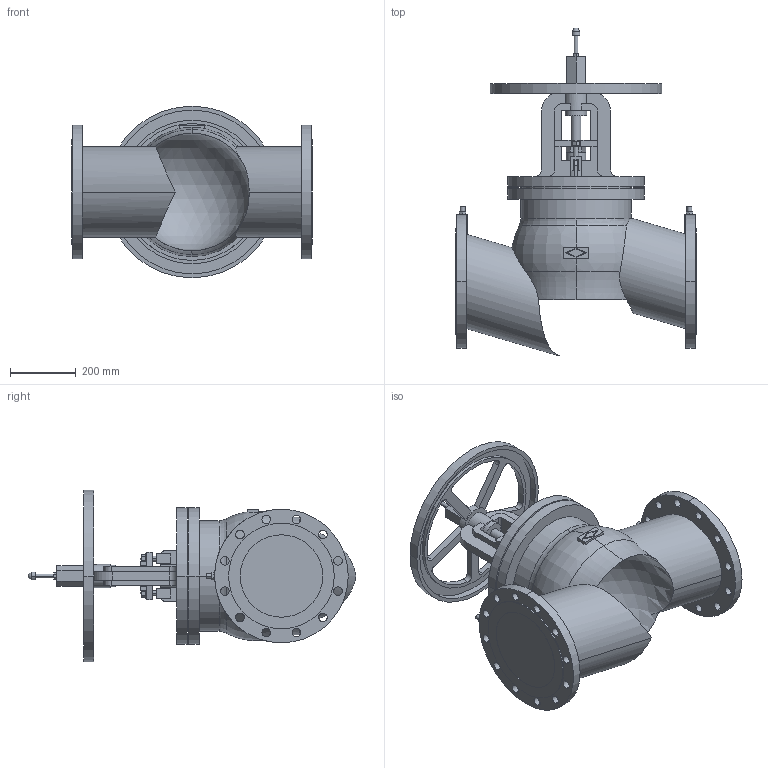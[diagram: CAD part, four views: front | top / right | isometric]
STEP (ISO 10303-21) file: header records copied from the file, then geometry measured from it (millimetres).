
FILE_DESCRIPTION( ( '' ), '1' );
FILE_NAME( 'F:/DE-SHS/TB/OR/04-Sonstiges/daten/files_3d/12042/c000000221.stp', '2015-04-28T06:37:48', ( '' ), ( '' ), ' ', ' ', ' ' );
FILE_SCHEMA( ( 'CONFIG_CONTROL_DESIGN' ) );
Length unit declared in the file: millimetre
Products named in the file (1): 1
Bounding box: 730 x 993.98 x 520 mm (x, y, z)
Volume: 61367783 mm3; surface area: 2334517.6 mm2
Topology: 1 solids, 1 shells, 355 faces, 978 edges, 649 vertices
Faces by surface type: plane 182, cylinder 153, torus 14, sphere 6
Entity records: 12260 total; most frequent: CARTESIAN_POINT 2775, DIRECTION 2002, ORIENTED_EDGE 1948, EDGE_CURVE 974, AXIS2_PLACEMENT_3D 712, VERTEX_POINT 649, LINE 578, VECTOR 578
